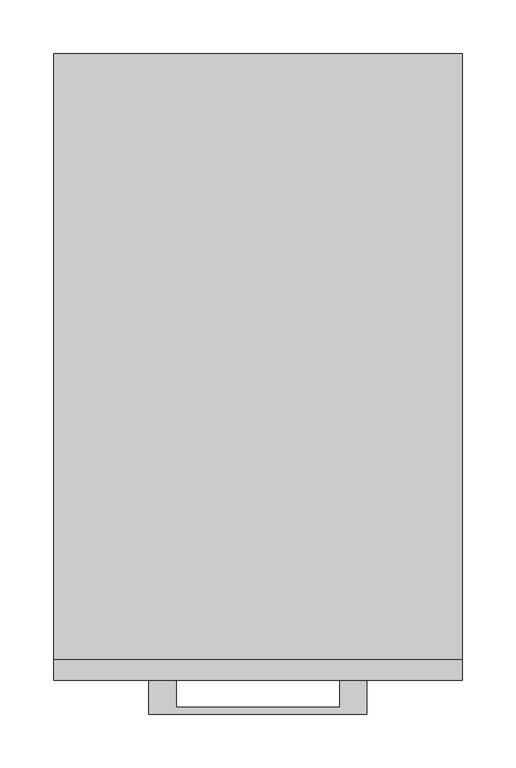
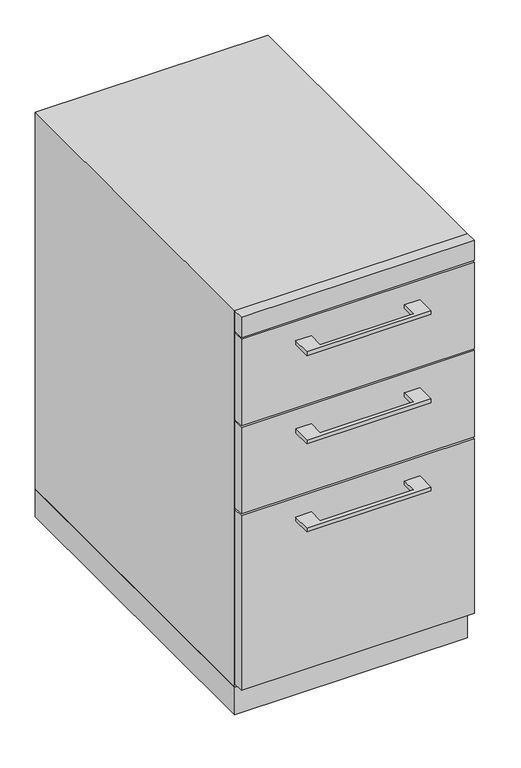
"""IFC4 building model written with IfcOpenShell, lengths in millimetres: furniture geometry, Haworth_XSeries_Pedestal : 23d 15w 27h - Box Box File - Suspended."""

from ifc_helpers import new_model, si_unit, frame, origin, origin_with_axes, place, context, project, spatial, polyline, outline, extrude, source, transform, mapped, element, save


def furniture_0ba0aaf9(model_context):
    return source(origin(), model_context, "Body", "SweptSolid", [
        extrude(outline(polyline([(-76.1999818, -584.2), (-76.1999818, -609.5999758), (76.2, -609.5999758), (76.2, -584.2), (101.5999939, -584.2), (101.5999939, -615.9499879), (-101.5999939, -615.9499879), (-101.5999939, -584.2), (-76.1999818, -584.2)])), frame((0.0, 0.0, 468.3125506), z_axis=(0.0, 0.0, 1.0), x_axis=(1.0, 0.0, 0.0)), (0.0, 0.0, 1.0), 6.3499758),
        extrude(outline(polyline([(190.5, -565.15), (190.5, -584.2), (-190.5, -584.2), (-190.5, -565.15), (190.5, -565.15)])), frame((0.0, 0.0, 358.775), z_axis=(0.0, 0.0, 1.0), x_axis=(1.0, 0.0, 0.0)), (0.0, 0.0, 1.0), 149.225),
        extrude(outline(polyline([(-76.1999818, -584.2), (-76.1999818, -609.5999758), (76.2, -609.5999758), (76.2, -584.2), (101.5999939, -584.2), (101.5999939, -615.9499879), (-101.5999939, -615.9499879), (-101.5999939, -584.2), (-76.1999818, -584.2)])), frame((0.0, 0.0, 620.7125506), z_axis=(0.0, 0.0, 1.0), x_axis=(1.0, 0.0, 0.0)), (0.0, 0.0, 1.0), 6.3499758),
        extrude(outline(polyline([(190.5, -565.15), (190.5, -584.2), (-190.5, -584.2), (-190.5, -565.15), (190.5, -565.15)])), frame((0.0, 0.0, 511.175), z_axis=(0.0, 0.0, 1.0), x_axis=(1.0, 0.0, 0.0)), (0.0, 0.0, 1.0), 149.225),
        extrude(outline(polyline([(-76.1999818, -584.2), (-76.1999818, -609.5999758), (76.2, -609.5999758), (76.2, -584.2), (101.5999939, -584.2), (101.5999939, -615.9499879), (-101.5999939, -615.9499879), (-101.5999939, -584.2), (-76.1999818, -584.2)])), frame((0.0, 0.0, 315.9125506), z_axis=(0.0, 0.0, 1.0), x_axis=(1.0, 0.0, 0.0)), (0.0, 0.0, 1.0), 6.3499758),
        extrude(outline(polyline([(190.5, -565.15), (190.5, -584.2), (-190.5, -584.2), (-190.5, -565.15), (190.5, -565.15)])), frame((0.0, 0.0, 53.975), z_axis=(0.0, 0.0, 1.0), x_axis=(1.0, 0.0, 0.0)), (0.0, 0.0, 1.0), 301.625),
        extrude(outline(polyline([(190.5, 0.0), (190.5, -565.15), (-190.5, -565.15), (-190.5, 0.0), (190.5, 0.0)])), origin_with_axes(), (0.0, 0.0, 1.0), 47.625),
        extrude(outline(polyline([(190.5, -584.2), (-190.5, -584.2), (-190.5, -565.15), (190.5, -565.15), (190.5, -584.2)])), frame((0.0, 0.0, 663.575), z_axis=(0.0, 0.0, 1.0), x_axis=(1.0, 0.0, 0.0)), (0.0, 0.0, 1.0), 34.925),
        extrude(outline(polyline([(190.5, 0.0), (190.5, -565.15), (-190.5, -565.15), (-190.5, 0.0), (190.5, 0.0)])), frame((0.0, 0.0, 47.625), z_axis=(0.0, 0.0, 1.0), x_axis=(1.0, 0.0, 0.0)), (0.0, 0.0, 1.0), 650.875),
    ])


if __name__ == "__main__":
    model = new_model("IFC4")
    model_context = context("Model", 3, world=origin())
    ifc_project = project(units=[si_unit("LENGTHUNIT", "METRE", prefix="MILLI")], contexts=[model_context])
    site = spatial("IfcSite", under=ifc_project)
    building = spatial("IfcBuilding", under=site)
    placement = place(None, origin())
    furniture_shape = furniture_0ba0aaf9(model_context)
    element("IfcFurniture", 1, ObjectType="Haworth_XSeries_Pedestal : 23d 15w 27h - Box Box File - Suspended", at=placement, inside=building, context=model_context, shape_type="MappedRepresentation", body=[
        mapped(furniture_shape, transform((0.0, 0.0, 0.0), x_axis=(1.0, 0.0, 0.0), y_axis=(0.0, 1.0, 0.0), z_axis=(0.0, 0.0, 1.0))),
    ])
    save(model, "model.ifc")
